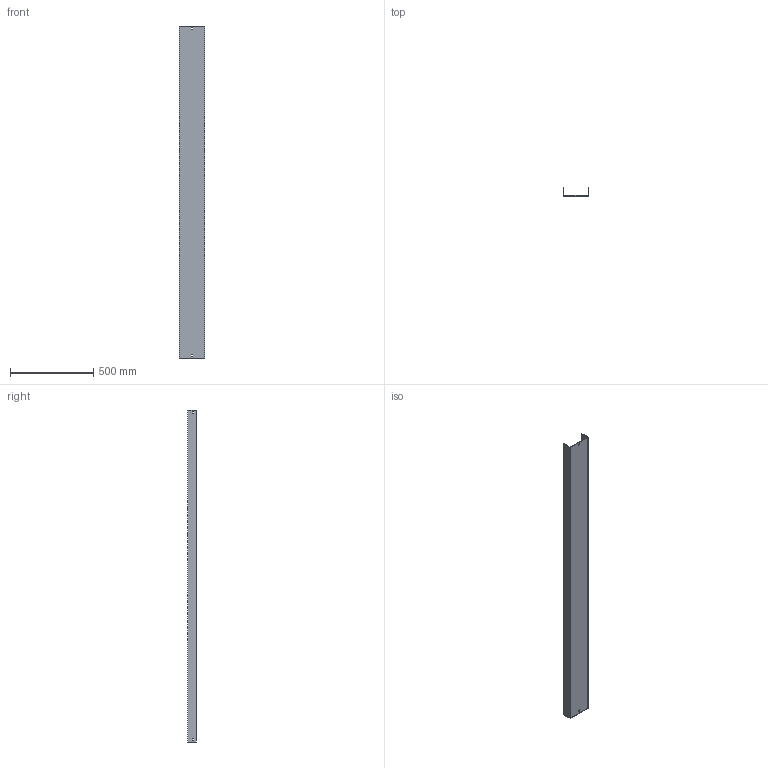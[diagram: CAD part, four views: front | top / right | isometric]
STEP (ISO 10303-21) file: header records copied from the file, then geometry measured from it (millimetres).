
FILE_DESCRIPTION (( 'STEP AP214' ), '1' );
FILE_NAME ('03F2B150.step', '2025-02-21T13:23:35', ( '' ), ( '' ), 'SwSTEP 2.0', 'SolidWorks 2023', '' );
FILE_SCHEMA (( 'AUTOMOTIVE_DESIGN' ));
Length unit declared in the file: millimetre
Products named in the file (1): 03F2B150
Bounding box: 154 x 52 x 2000 mm (x, y, z)
Volume: 1755610.5 mm3; surface area: 1019656 mm2
Topology: 1 solids, 1 shells, 34 faces, 96 edges, 64 vertices
Faces by surface type: plane 34
Entity records: 1127 total; most frequent: CARTESIAN_POINT 195, ORIENTED_EDGE 192, DIRECTION 166, VECTOR 96, LINE 96, EDGE_CURVE 96, VERTEX_POINT 64, EDGE_LOOP 46
